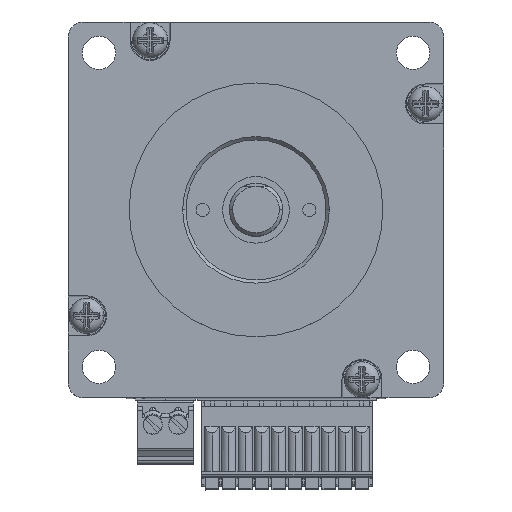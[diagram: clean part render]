
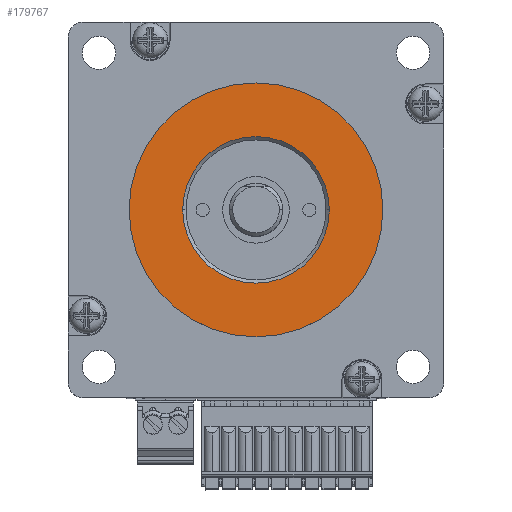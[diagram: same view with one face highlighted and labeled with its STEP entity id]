
A CAD part, top view. The second image highlights one B-rep face of the part: STEP entity #179767.
In plain terms, the highlighted planar face has unit normal (0, 0, 1).
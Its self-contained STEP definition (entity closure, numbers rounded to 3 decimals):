
#8296 = CIRCLE ( 'NONE', #56302, 11. ) ;
#10093 = DIRECTION ( 'NONE',  ( 1., 0., 0. ) ) ;
#12889 = CIRCLE ( 'NONE', #32903, 11. ) ;
#27926 = EDGE_CURVE ( 'NONE', #198738, #227126, #206505, .T. ) ;
#32903 = AXIS2_PLACEMENT_3D ( 'NONE', #161124, #158624, #122580 ) ;
#35773 = FACE_OUTER_BOUND ( 'NONE', #159519, .T. ) ;
#48257 = AXIS2_PLACEMENT_3D ( 'NONE', #191535, #114355, #171620 ) ;
#50622 = EDGE_CURVE ( 'NONE', #227126, #198738, #243930, .T. ) ;
#51506 = CARTESIAN_POINT ( 'NONE',  ( -11., 0., 1.6 ) ) ;
#52921 = ORIENTED_EDGE ( 'NONE', *, *, #50622, .T. ) ;
#53313 = FACE_BOUND ( 'NONE', #203410, .T. ) ;
#54661 = CARTESIAN_POINT ( 'NONE',  ( 0., 0., 1.6 ) ) ;
#55779 = VERTEX_POINT ( 'NONE', #51506 ) ;
#56302 = AXIS2_PLACEMENT_3D ( 'NONE', #54661, #169306, #129517 ) ;
#56979 = CARTESIAN_POINT ( 'NONE',  ( 0., 0., 1.6 ) ) ;
#64252 = CARTESIAN_POINT ( 'NONE',  ( -19.05, 0., 1.6 ) ) ;
#111392 = CARTESIAN_POINT ( 'NONE',  ( 19.05, 0., 1.6 ) ) ;
#112795 = EDGE_CURVE ( 'NONE', #55779, #155108, #8296, .T. ) ;
#114355 = DIRECTION ( 'NONE',  ( 0., 0., 1. ) ) ;
#116841 = AXIS2_PLACEMENT_3D ( 'NONE', #56979, #131805, #184203 ) ;
#122580 = DIRECTION ( 'NONE',  ( 1., 0., 0. ) ) ;
#123686 = CARTESIAN_POINT ( 'NONE',  ( 0., 0., 1.6 ) ) ;
#124057 = ORIENTED_EDGE ( 'NONE', *, *, #27926, .T. ) ;
#126627 = ORIENTED_EDGE ( 'NONE', *, *, #194243, .F. ) ;
#129517 = DIRECTION ( 'NONE',  ( 1., 0., 0. ) ) ;
#131805 = DIRECTION ( 'NONE',  ( 0., 0., 1. ) ) ;
#141882 = CARTESIAN_POINT ( 'NONE',  ( 11., 0., 1.6 ) ) ;
#145763 = ORIENTED_EDGE ( 'NONE', *, *, #112795, .F. ) ;
#155108 = VERTEX_POINT ( 'NONE', #141882 ) ;
#158624 = DIRECTION ( 'NONE',  ( 0., 0., 1. ) ) ;
#159519 = EDGE_LOOP ( 'NONE', ( #52921, #124057 ) ) ;
#161124 = CARTESIAN_POINT ( 'NONE',  ( 0., 0., 1.6 ) ) ;
#169306 = DIRECTION ( 'NONE',  ( 0., 0., 1. ) ) ;
#171620 = DIRECTION ( 'NONE',  ( 1., 0., 0. ) ) ;
#179767 = ADVANCED_FACE ( 'NONE', ( #53313, #35773 ), #225259, .T. ) ;
#184203 = DIRECTION ( 'NONE',  ( 1., 0., 0. ) ) ;
#191535 = CARTESIAN_POINT ( 'NONE',  ( 0., 0., 1.6 ) ) ;
#194243 = EDGE_CURVE ( 'NONE', #155108, #55779, #12889, .T. ) ;
#198391 = DIRECTION ( 'NONE',  ( 0., 0., 1. ) ) ;
#198738 = VERTEX_POINT ( 'NONE', #111392 ) ;
#203410 = EDGE_LOOP ( 'NONE', ( #126627, #145763 ) ) ;
#206505 = CIRCLE ( 'NONE', #210580, 19.05 ) ;
#210580 = AXIS2_PLACEMENT_3D ( 'NONE', #123686, #198391, #10093 ) ;
#225259 = PLANE ( 'NONE',  #48257 ) ;
#227126 = VERTEX_POINT ( 'NONE', #64252 ) ;
#243930 = CIRCLE ( 'NONE', #116841, 19.05 ) ;
